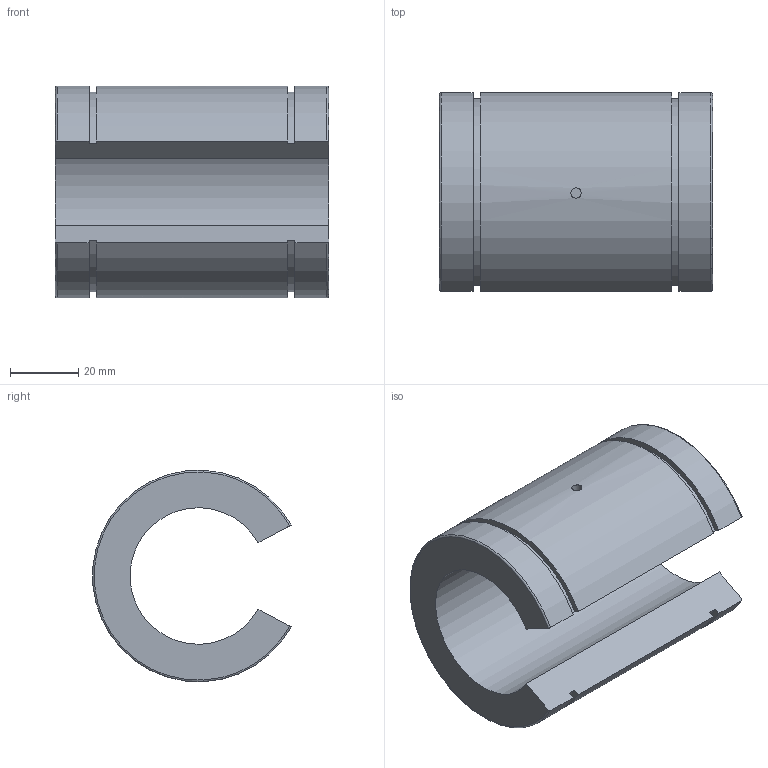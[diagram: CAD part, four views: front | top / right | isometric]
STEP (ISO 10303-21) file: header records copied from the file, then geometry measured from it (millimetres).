
FILE_DESCRIPTION(('STEP AP203'),'1');
FILE_NAME('//192.168.1.1/share/s-4 技術開発/s-4-4_CAD/s-4-4-3_見直し済み/007 修正済み/SB-OP/SB-40OP.step','2022-02-17T01:36:13',(' '),(' '),'Spatial InterOp 3D',' ',' ');
FILE_SCHEMA(('CONFIG_CONTROL_DESIGN'));
Length unit declared in the file: millimetre
Products named in the file (1): 1
Bounding box: 80 x 58.06 x 62 mm (x, y, z)
Volume: 117081.5 mm3; surface area: 27276.9 mm2
Topology: 1 solids, 1 shells, 20 faces, 49 edges, 33 vertices
Faces by surface type: plane 10, cylinder 8, torus 2
Full cylindrical faces by diameter (mm): 3 x1, 3.5 x1
Entity records: 730 total; most frequent: CARTESIAN_POINT 219, DIRECTION 98, ORIENTED_EDGE 92, EDGE_CURVE 46, AXIS2_PLACEMENT_3D 37, VERTEX_POINT 32, EDGE_LOOP 24, LINE 24
